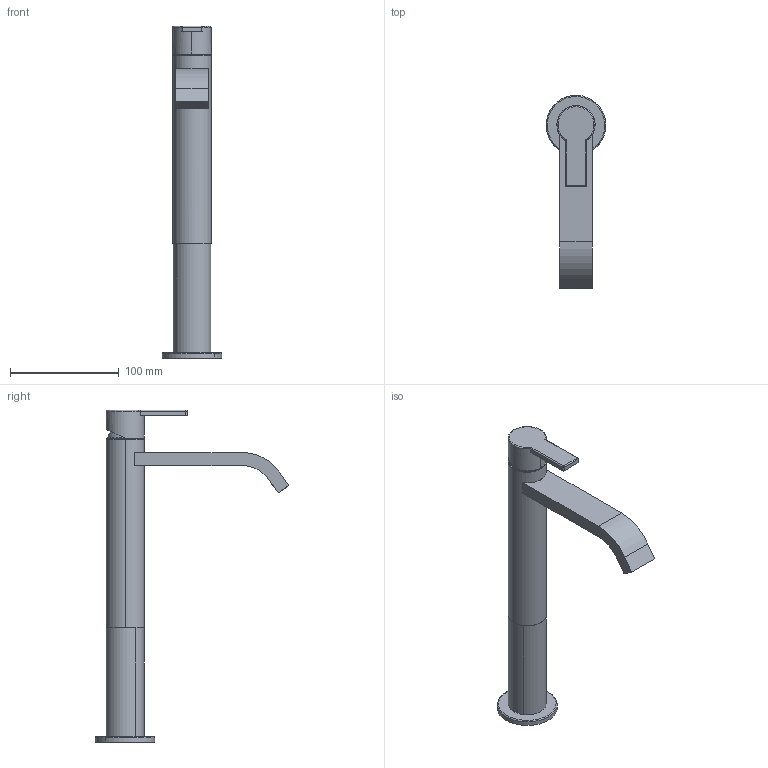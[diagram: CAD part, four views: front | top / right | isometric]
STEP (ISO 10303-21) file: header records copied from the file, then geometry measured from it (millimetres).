
FILE_DESCRIPTION (( 'STEP AP203' ), '1' );
FILE_NAME ('IKO3.STEP', '2023-11-16T07:31:40', ( '' ), ( '' ), 'SwSTEP 2.0', 'SolidWorks 2021', '' );
FILE_SCHEMA (( 'CONFIG_CONTROL_DESIGN' ));
Length unit declared in the file: millimetre
Products named in the file (16): C10.00.0029; C24.1861.00.0; C47.00.0023.01; C23.0824.01; C12.00.0045; C20.575135.00; C24.1863.00.0; C11.14.0012; C24.1865.00.0; C13.00.0010; C24.1871.00.0; C12.00.0028; C23.0360.01; C11.14.0009; IKO3; C24.1866.00.0
Assembly tree (15 placements, depth 2):
  IKO3
    C24.1865.00.0
    C24.1871.00.0
    C20.575135.00
    C24.1861.00.0
    C23.0824.01
    C24.1863.00.0
    C12.00.0028
    C10.00.0029
    C23.0360.01
    C11.14.0009
    C47.00.0023.01
    C12.00.0045
    C24.1866.00.0
    C11.14.0012
    C13.00.0010
Bounding box: 54.98 x 178.01 x 305.1 mm (x, y, z)
Volume: 176268.2 mm3; surface area: 105348.4 mm2
Topology: 18 solids, 18 shells, 1142 faces, 2715 edges, 1740 vertices
Faces by surface type: plane 712, cylinder 245, cone 77, bspline 59, torus 42, sphere 7
Entity records: 36502 total; most frequent: CARTESIAN_POINT 8166, DIRECTION 5547, ORIENTED_EDGE 5414, EDGE_CURVE 2707, AXIS2_PLACEMENT_3D 1874, VECTOR 1799, LINE 1799, VERTEX_POINT 1742
